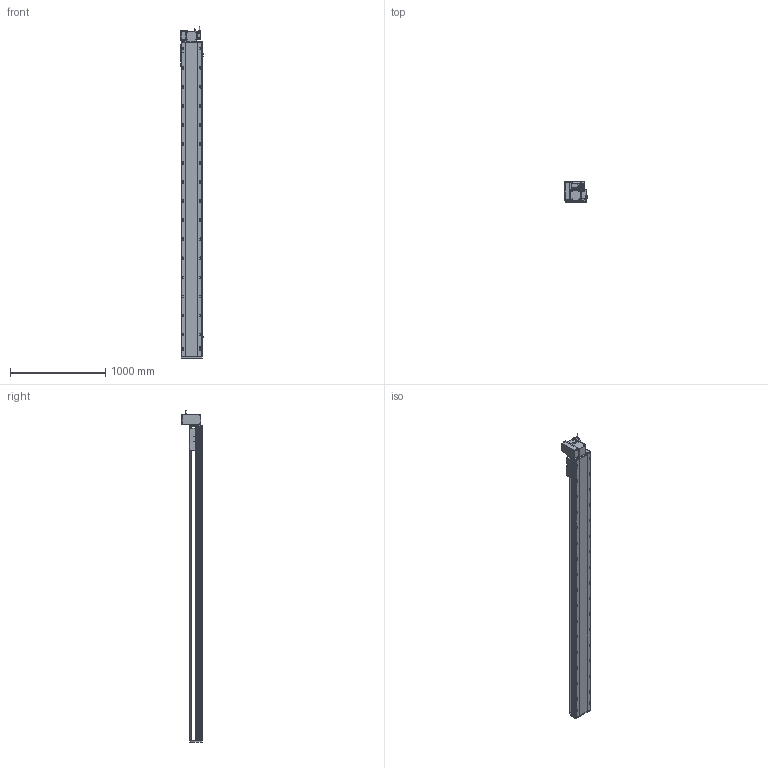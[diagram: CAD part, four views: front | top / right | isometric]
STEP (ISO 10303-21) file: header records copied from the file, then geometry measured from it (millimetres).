
FILE_DESCRIPTION (( 'STEP AP214' ), '1' );
FILE_NAME ('RTB22S-XX-2950-LW-M75-C4.STEP', '2025-12-12T07:05:18', ( '' ), ( '' ), 'SwSTEP 2.0', 'SolidWorks 2018', '' );
FILE_SCHEMA (( 'AUTOMOTIVE_DESIGN' ));
Length unit declared in the file: millimetre
Products named in the file (14): RTB22S-GY-005P^RTB22S-LW-々湍釱蚾饜_RTB22S-XX-XX-LW-M75-C4; RTB22S-L-011菁釱^RTB22S-XX-XX-LW-M75-C4; OMRON EE-SX672 传感器^RTB22S-XX-XX-LW-M75-C4; RTB22S-GY-017P^RTB22S-LW-々湍釱蚾饜_RTB22S-XX-XX-LW-M75-C4; RTB22S-L-004賑釱^RTB22S-XX-XX-LW-M75-C4; RTB22S-XX-2950-LW-M75-C4; RTH22-GY-013外置感应片^RTB22S-XX-XX-LW-M75-C4; RTB22S-LW-々湍釱蚾饜^RTB22S-XX-XX-LW-M75-C4; RTB22S-GY-014--々湍釱^RTB22S-LW-々湍釱蚾饜_RTB22S-XX-XX-LW-M75-C4; 750W萇儂^RTB22S-XX-XX-LW-M75-C4; RTB22S-GY-001耜裔^RTB22S-XX-XX-LW-M75-C4; RTB22S-GY-007奻裔^RTB22S-XX-XX-LW-M75-C4; RTB22S-GY-018P^RTB22S-LW-々湍釱蚾饜_RTB22S-XX-XX-LW-M75-C4; RTB22S-GY-008-M75--萇儂啣^RTB22S-LW-々湍釱蚾饜_RTB22S-XX-XX-LW-M75-C4
Assembly tree (16 placements, depth 3):
  RTB22S-XX-2950-LW-M75-C4
    RTB22S-L-011菁釱^RTB22S-XX-XX-LW-M75-C4
    RTB22S-GY-001耜裔^RTB22S-XX-XX-LW-M75-C4
    750W萇儂^RTB22S-XX-XX-LW-M75-C4
    RTB22S-GY-007奻裔^RTB22S-XX-XX-LW-M75-C4
    RTB22S-L-004賑釱^RTB22S-XX-XX-LW-M75-C4
    RTH22-GY-013外置感应片^RTB22S-XX-XX-LW-M75-C4
    OMRON EE-SX672 传感器^RTB22S-XX-XX-LW-M75-C4  x3
    RTB22S-LW-々湍釱蚾饜^RTB22S-XX-XX-LW-M75-C4
      RTB22S-GY-014--々湍釱^RTB22S-LW-々湍釱蚾饜_RTB22S-XX-XX-LW-M75-C4
      RTB22S-GY-017P^RTB22S-LW-々湍釱蚾饜_RTB22S-XX-XX-LW-M75-C4  x2
      RTB22S-GY-005P^RTB22S-LW-々湍釱蚾饜_RTB22S-XX-XX-LW-M75-C4
      RTB22S-GY-008-M75--萇儂啣^RTB22S-LW-々湍釱蚾饜_RTB22S-XX-XX-LW-M75-C4
      RTB22S-GY-018P^RTB22S-LW-々湍釱蚾饜_RTB22S-XX-XX-LW-M75-C4
Bounding box: 238.5 x 215.5 x 3482.2 mm (x, y, z)
Volume: 44007678.2 mm3; surface area: 4487758.1 mm2
Topology: 15 solids, 15 shells, 2145 faces, 5836 edges, 3722 vertices
Faces by surface type: plane 933, cylinder 730, bspline 296, cone 174, sphere 8, torus 4
Entity records: 58690 total; most frequent: CARTESIAN_POINT 16504, ORIENTED_EDGE 8388, DIRECTION 8228, EDGE_CURVE 4194, AXIS2_PLACEMENT_3D 2962, VERTEX_POINT 2726, VECTOR 2304, LINE 2304
